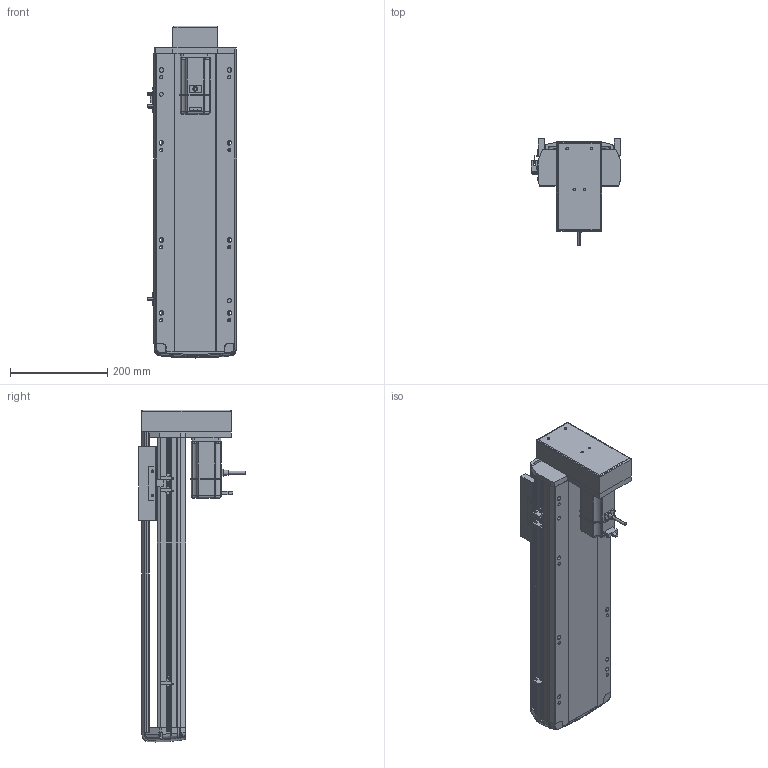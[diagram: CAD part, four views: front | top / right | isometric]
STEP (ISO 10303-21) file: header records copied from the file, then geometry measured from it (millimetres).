
FILE_DESCRIPTION (( 'STEP AP214' ), '1' );
FILE_NAME ('RTH17-XX-400-M-M40-C4.STEP', '2025-10-24T09:01:30', ( '' ), ( '' ), 'SwSTEP 2.0', 'SolidWorks 2018', '' );
FILE_SCHEMA (( 'AUTOMOTIVE_DESIGN' ));
Length unit declared in the file: millimetre
Products named in the file (10): N_RTH17-M-008-P40电机安装板下折^RTH17-XX-XX-M-M40-C4（方程式）; N_RTH17-E-004丝杆螺母连接座^RTH17-XX-XX-M-M40-C4（方程式）; N_RTH17-GY-001P^RTH17-XX-XX-M-M40-C4（方程式）; RTH17-XX-400-M-M40-C4; N_OMRON EE-SX672 換覜ん^RTH17-XX-XX-M-M40-C4ㄗ源最宒ㄘ; N_RTH-BL-012 感应片(外置)^RTH17-XX-XX-M-M40-C4（方程式）; N_RTH17-M-018盖子^RTH17-XX-XX-M-M40-C4（方程式）; N_RTH17-M-007上盖^RTH17-XX-XX-M-M40-C4（方程式）; N_RTH17-M-011底座^RTH17-XX-XX-M-M40-C4（方程式）; N_M40^RTH17-XX-XX-M-M40-C4（方程式）
Assembly tree (11 placements, depth 2):
  RTH17-XX-400-M-M40-C4
    N_RTH17-M-011底座^RTH17-XX-XX-M-M40-C4（方程式）
    N_RTH17-M-007上盖^RTH17-XX-XX-M-M40-C4（方程式）
    N_M40^RTH17-XX-XX-M-M40-C4（方程式）
    N_OMRON EE-SX672 換覜ん^RTH17-XX-XX-M-M40-C4ㄗ源最宒ㄘ  x3
    N_RTH-BL-012 感应片(外置)^RTH17-XX-XX-M-M40-C4（方程式）
    N_RTH17-M-008-P40电机安装板下折^RTH17-XX-XX-M-M40-C4（方程式）
    N_RTH17-M-018盖子^RTH17-XX-XX-M-M40-C4（方程式）
    N_RTH17-E-004丝杆螺母连接座^RTH17-XX-XX-M-M40-C4（方程式）
    N_RTH17-GY-001P^RTH17-XX-XX-M-M40-C4（方程式）
Bounding box: 183.5 x 219 x 683.27 mm (x, y, z)
Volume: 5722313.9 mm3; surface area: 872179.2 mm2
Topology: 10 solids, 12 shells, 1631 faces, 4536 edges, 2956 vertices
Faces by surface type: plane 828, cylinder 436, bspline 330, cone 28, torus 9
Entity records: 47268 total; most frequent: CARTESIAN_POINT 19152, ORIENTED_EDGE 6096, DIRECTION 5020, EDGE_CURVE 3052, VERTEX_POINT 1992, LINE 1738, VECTOR 1738, AXIS2_PLACEMENT_3D 1641
